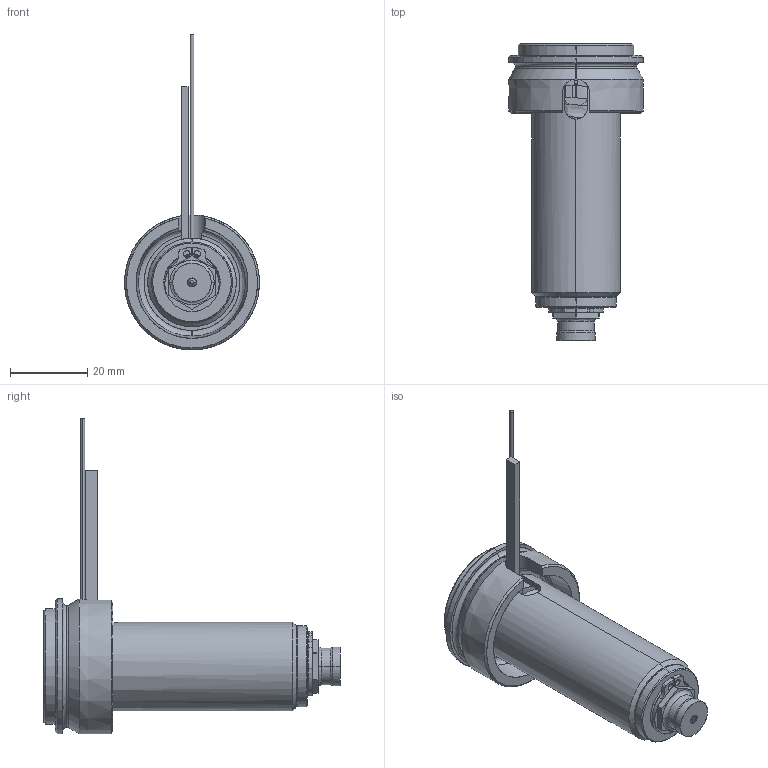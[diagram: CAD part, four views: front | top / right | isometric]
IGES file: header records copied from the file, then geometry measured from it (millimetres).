
Start section: SolidWorks IGES file using analytic representation for surfaces
Global section: file name: C:\Documents and Settings\ws-20\Desktop\TEM\UGEP3151-M-A-0 [Øf-0.90 P-0 ØC-7.0].IGS; native system: SolidWorks 2012; preprocessor: SolidWorks 2012; author: ws-20; date: 120404.081734; units: millimetre
Bounding box: 35 x 77 x 81.9 mm (x, y, z)
Surface area: 17259.4 mm2 (no closed solid volume)
Topology: 0 solids, 0 shells, 124 faces, 1776 edges, 1776 vertices
Faces by surface type: revolution 75, bspline 49
